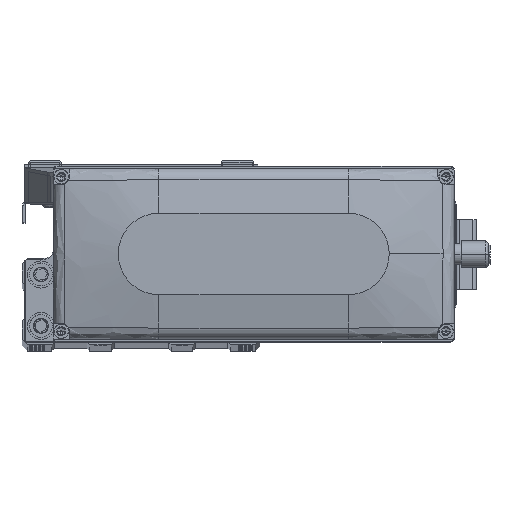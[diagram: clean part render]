
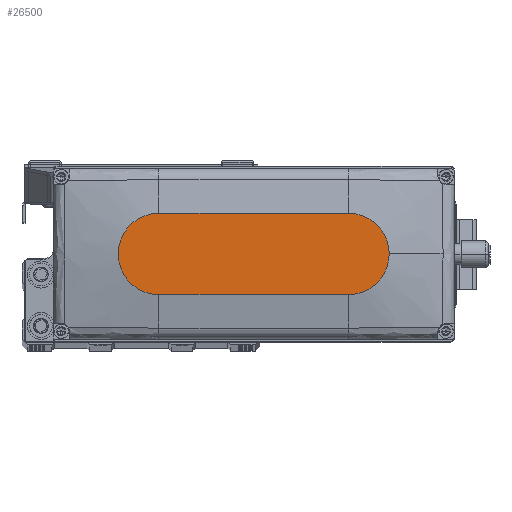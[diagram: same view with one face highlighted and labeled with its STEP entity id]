
A CAD part, top view. The second image highlights one B-rep face of the part: STEP entity #26500.
In plain terms, the highlighted planar face has unit normal (0, 0, 1).
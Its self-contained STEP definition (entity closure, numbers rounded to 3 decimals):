
#195 = AXIS2_PLACEMENT_3D ( 'NONE', #36571, #196, #16409 ) ;
#196 = DIRECTION ( 'NONE',  ( 0., 0., 1. ) ) ;
#756 = CARTESIAN_POINT ( 'NONE',  ( -35., 0., 35. ) ) ;
#1228 = AXIS2_PLACEMENT_3D ( 'NONE', #16408, #32613, #48828 ) ;
#1540 = VECTOR ( 'NONE', #12419, 1000. ) ;
#2493 = CARTESIAN_POINT ( 'NONE',  ( 35., 15., 35. ) ) ;
#3344 = EDGE_CURVE ( 'NONE', #50462, #11636, #34294, .T. ) ;
#4185 = FACE_OUTER_BOUND ( 'NONE', #51616, .T. ) ;
#5760 = CARTESIAN_POINT ( 'NONE',  ( 35., 0., 35. ) ) ;
#6955 = VECTOR ( 'NONE', #45818, 1000. ) ;
#8042 = ORIENTED_EDGE ( 'NONE', *, *, #20029, .T. ) ;
#11026 = VERTEX_POINT ( 'NONE', #36864 ) ;
#11371 = AXIS2_PLACEMENT_3D ( 'NONE', #5760, #21966, #38135 ) ;
#11636 = VERTEX_POINT ( 'NONE', #2493 ) ;
#12419 = DIRECTION ( 'NONE',  ( -1., 0., 0. ) ) ;
#13029 = EDGE_CURVE ( 'NONE', #11026, #15906, #13408, .T. ) ;
#13408 = LINE ( 'NONE', #29629, #6955 ) ;
#14291 = CARTESIAN_POINT ( 'NONE',  ( -35., 15., 35. ) ) ;
#15906 = VERTEX_POINT ( 'NONE', #18360 ) ;
#16408 = CARTESIAN_POINT ( 'NONE',  ( 35., 0., 35. ) ) ;
#16409 = DIRECTION ( 'NONE',  ( 1., 0., 0. ) ) ;
#16962 = DIRECTION ( 'NONE',  ( 0., 0., 1. ) ) ;
#18360 = CARTESIAN_POINT ( 'NONE',  ( 35., -15., 35. ) ) ;
#19096 = AXIS2_PLACEMENT_3D ( 'NONE', #756, #16962, #33165 ) ;
#19248 = EDGE_CURVE ( 'NONE', #11636, #23898, #32611, .T. ) ;
#20029 = EDGE_CURVE ( 'NONE', #15906, #50462, #47054, .T. ) ;
#20385 = PLANE ( 'NONE',  #195 ) ;
#21966 = DIRECTION ( 'NONE',  ( 0., 0., 1. ) ) ;
#22046 = ORIENTED_EDGE ( 'NONE', *, *, #19248, .T. ) ;
#23898 = VERTEX_POINT ( 'NONE', #14291 ) ;
#26500 = ADVANCED_FACE ( 'NONE', ( #4185 ), #20385, .T. ) ;
#27835 = CARTESIAN_POINT ( 'NONE',  ( 50., 0., 35. ) ) ;
#29004 = EDGE_CURVE ( 'NONE', #23898, #11026, #41988, .T. ) ;
#29468 = ORIENTED_EDGE ( 'NONE', *, *, #3344, .T. ) ;
#29629 = CARTESIAN_POINT ( 'NONE',  ( -35., -15., 35. ) ) ;
#32611 = LINE ( 'NONE', #48824, #1540 ) ;
#32613 = DIRECTION ( 'NONE',  ( 0., 0., 1. ) ) ;
#33165 = DIRECTION ( 'NONE',  ( 1., 0., 0. ) ) ;
#34294 = CIRCLE ( 'NONE', #11371, 15. ) ;
#36571 = CARTESIAN_POINT ( 'NONE',  ( 0., 0., 35. ) ) ;
#36864 = CARTESIAN_POINT ( 'NONE',  ( -35., -15., 35. ) ) ;
#38135 = DIRECTION ( 'NONE',  ( 1., 0., 0. ) ) ;
#39781 = ORIENTED_EDGE ( 'NONE', *, *, #29004, .T. ) ;
#41988 = CIRCLE ( 'NONE', #19096, 15. ) ;
#45818 = DIRECTION ( 'NONE',  ( 1., 0., 0. ) ) ;
#47054 = CIRCLE ( 'NONE', #1228, 15. ) ;
#48824 = CARTESIAN_POINT ( 'NONE',  ( -35., 15., 35. ) ) ;
#48828 = DIRECTION ( 'NONE',  ( 1., 0., 0. ) ) ;
#48887 = ORIENTED_EDGE ( 'NONE', *, *, #13029, .T. ) ;
#50462 = VERTEX_POINT ( 'NONE', #27835 ) ;
#51616 = EDGE_LOOP ( 'NONE', ( #22046, #39781, #48887, #8042, #29468 ) ) ;
